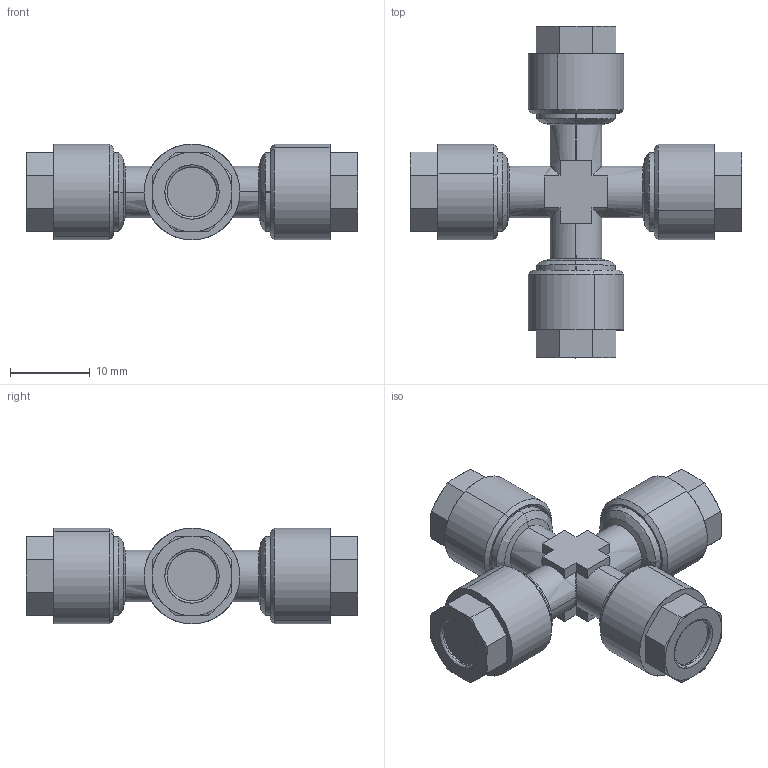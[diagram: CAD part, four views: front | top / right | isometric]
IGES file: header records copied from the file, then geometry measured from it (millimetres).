
Start section: SolidWorks IGES file using analytic representation for surfaces
Global section: file name: K:\Disegni Esecutivi\Serie 1000\Complessivi Serie 1000\1300\1300_iges\0130000002A.IGS; native system: SolidWorks 2008; preprocessor: SolidWorks 2008; author: cad05; date: 090211.095701; units: millimetre
Bounding box: 41.6 x 41.6 x 12 mm (x, y, z)
Surface area: 3106.9 mm2 (no closed solid volume)
Topology: 0 solids, 0 shells, 182 faces, 1760 edges, 1760 vertices
Faces by surface type: revolution 92, bspline 90
